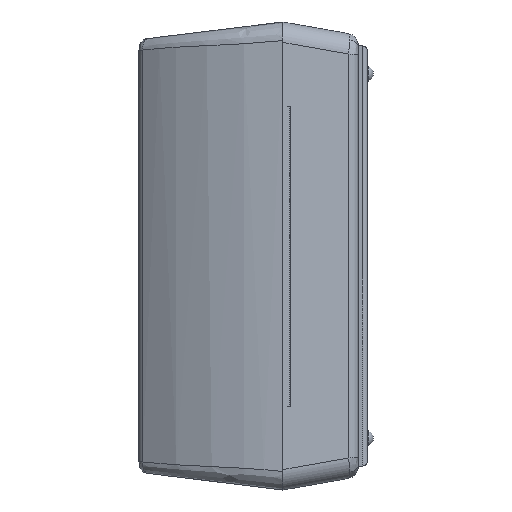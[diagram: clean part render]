
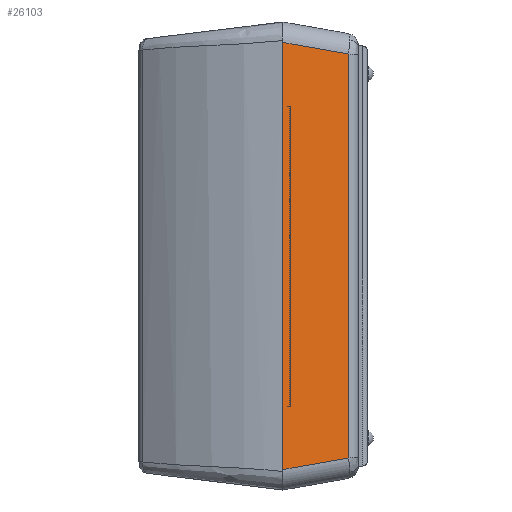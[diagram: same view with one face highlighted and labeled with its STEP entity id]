
A CAD part, left-side view. The second image highlights one B-rep face of the part: STEP entity #26103.
In plain terms, the highlighted planar face has unit normal (-0.985, -0.174, 0).
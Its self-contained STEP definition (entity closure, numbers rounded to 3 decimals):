
#251 = CARTESIAN_POINT ( 'NONE',  ( -95.3, 0., 46.268 ) ) ;
#972 = EDGE_LOOP ( 'NONE', ( #10560, #20354, #25175, #5692 ) ) ;
#1698 = DIRECTION ( 'NONE',  ( -0.985, -0.174, 0. ) ) ;
#2279 = LINE ( 'NONE', #15424, #7022 ) ;
#4486 = LINE ( 'NONE', #7214, #9224 ) ;
#4626 = VECTOR ( 'NONE', #20358, 1000. ) ;
#5444 = DIRECTION ( 'NONE',  ( -0.171, 0.97, 0.171 ) ) ;
#5687 = CARTESIAN_POINT ( 'NONE',  ( -95.3, 0., 50.7 ) ) ;
#5692 = ORIENTED_EDGE ( 'NONE', *, *, #13165, .T. ) ;
#6862 = EDGE_CURVE ( 'NONE', #21696, #23631, #2279, .T. ) ;
#7022 = VECTOR ( 'NONE', #7318, 1000. ) ;
#7214 = CARTESIAN_POINT ( 'NONE',  ( -92.79, -14.234, 47.826 ) ) ;
#7318 = DIRECTION ( 'NONE',  ( 0.171, -0.97, 0.171 ) ) ;
#8278 = CARTESIAN_POINT ( 'NONE',  ( -95.3, 0., 50.7 ) ) ;
#9195 = VECTOR ( 'NONE', #5444, 1000. ) ;
#9224 = VECTOR ( 'NONE', #9234, 1000. ) ;
#9234 = DIRECTION ( 'NONE',  ( 0., 0., 1. ) ) ;
#10560 = ORIENTED_EDGE ( 'NONE', *, *, #19317, .F. ) ;
#10851 = VERTEX_POINT ( 'NONE', #24236 ) ;
#11785 = CARTESIAN_POINT ( 'NONE',  ( -95.3, 0., -46.268 ) ) ;
#12528 = AXIS2_PLACEMENT_3D ( 'NONE', #5687, #1698, #15801 ) ;
#13165 = EDGE_CURVE ( 'NONE', #10851, #16667, #25303, .T. ) ;
#13549 = CARTESIAN_POINT ( 'NONE',  ( -95.43, 0.736, 46.398 ) ) ;
#13794 = PLANE ( 'NONE',  #12528 ) ;
#15424 = CARTESIAN_POINT ( 'NONE',  ( -92.462, -16.097, -43.43 ) ) ;
#15801 = DIRECTION ( 'NONE',  ( 0.174, -0.985, 0. ) ) ;
#16606 = CARTESIAN_POINT ( 'NONE',  ( -92.79, -14.234, -43.759 ) ) ;
#16667 = VERTEX_POINT ( 'NONE', #251 ) ;
#19147 = FACE_OUTER_BOUND ( 'NONE', #972, .T. ) ;
#19317 = EDGE_CURVE ( 'NONE', #21696, #16667, #26105, .T. ) ;
#20354 = ORIENTED_EDGE ( 'NONE', *, *, #6862, .T. ) ;
#20358 = DIRECTION ( 'NONE',  ( 0., 0., 1. ) ) ;
#21544 = EDGE_CURVE ( 'NONE', #23631, #10851, #4486, .T. ) ;
#21696 = VERTEX_POINT ( 'NONE', #11785 ) ;
#23631 = VERTEX_POINT ( 'NONE', #16606 ) ;
#24236 = CARTESIAN_POINT ( 'NONE',  ( -92.79, -14.234, 43.759 ) ) ;
#25175 = ORIENTED_EDGE ( 'NONE', *, *, #21544, .T. ) ;
#25303 = LINE ( 'NONE', #13549, #9195 ) ;
#26103 = ADVANCED_FACE ( 'NONE', ( #19147 ), #13794, .T. ) ;
#26105 = LINE ( 'NONE', #8278, #4626 ) ;
